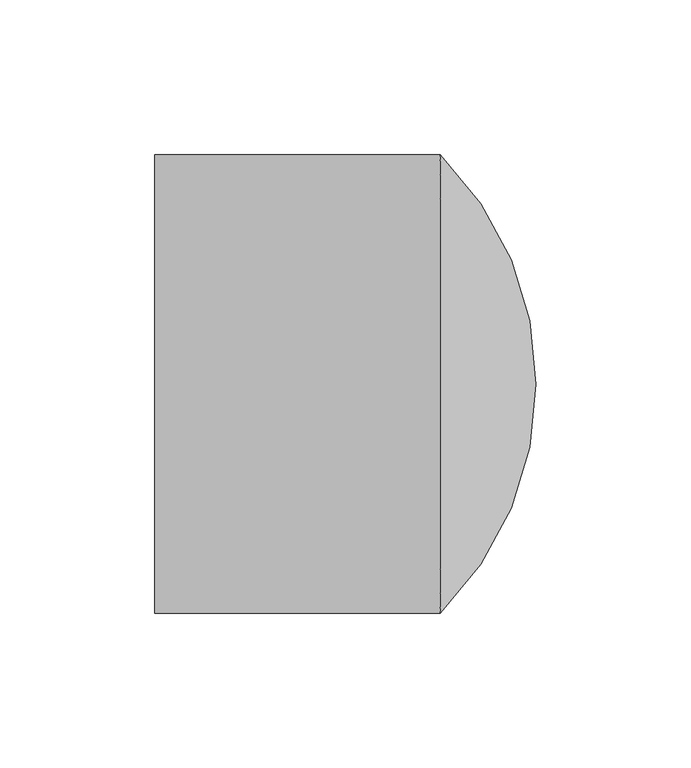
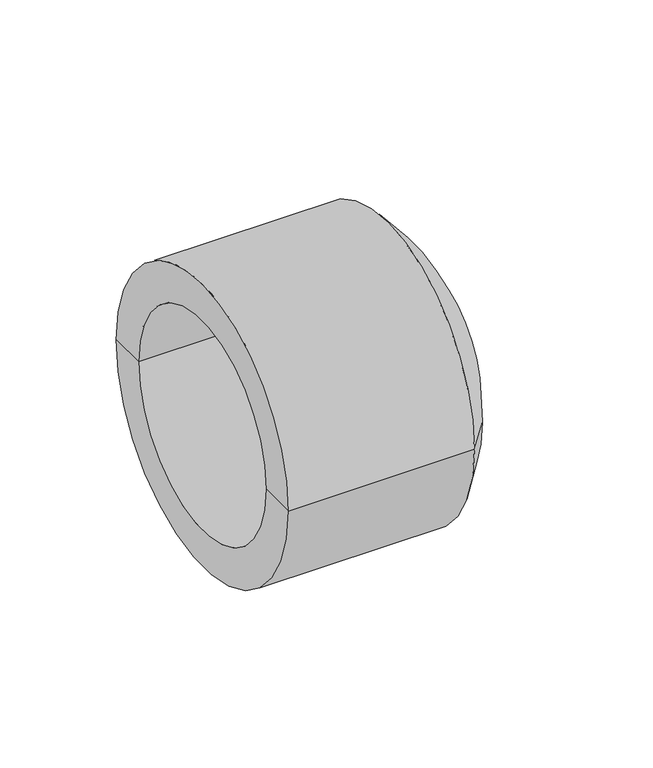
"""IFC4 building model written with IfcOpenShell, lengths in millimetres: pipe fitting geometry, EGB_VASEN_ PPR_Tapon a tope WXB700 : Tapón a tope WXRB700."""

from ifc_helpers import new_model, si_unit, point, frame, origin, place, context, project, spatial, polyline, circle_curve, ellipse_curve, trimmed, source, transform, mapped, element, save
from ifc_brep_helpers import plane_surface, cylinder_surface, revolved_surface, advanced_brep


def pipe_fitting_f6edc045(model_context):
    return source(origin(), model_context, "Body", "AdvancedBrep", [
        advanced_brep(
        [(0.0, -74.0, 0.0), (0.0, 74.0, 0.0), (92.25, 74.0, 0.0), (92.25, -74.0, 0.0), (0.0, -55.0, 0.0), (0.0, 55.0, 0.0), (83.9520174, -55.0, 0.0), (83.9520174, 55.0, 0.0), (104.0, 0.0, 0.0), (123.0, 0.0, 0.0)],
        [
            (0, 1, circle_curve(frame((0.0, 0.0, 0.0), z_axis=(1.0, 0.0, 0.0), x_axis=(0.0, 1.0, 0.0)), 74.0)),
            (1, 2),
            (2, 3, circle_curve(frame((92.25, 0.0, 0.0), z_axis=(-1.0, 0.0, 0.0), x_axis=(0.0, 1.0, 0.0)), 74.0)),
            (3, 0),
            (1, 0, circle_curve(frame((0.0, 0.0, 0.0), z_axis=(1.0, 0.0, 0.0), x_axis=(0.0, 1.0, 0.0)), 74.0)),
            (3, 2, circle_curve(frame((92.25, 0.0, 0.0), z_axis=(-1.0, 0.0, 0.0), x_axis=(0.0, 1.0, 0.0)), 74.0)),
            (4, 5, circle_curve(frame((0.0, 0.0, 0.0), z_axis=(1.0, 0.0, 0.0), x_axis=(0.0, 1.0, 0.0)), 55.0)),
            (5, 1),
            (0, 4),
            (5, 4, circle_curve(frame((0.0, 0.0, 0.0), z_axis=(1.0, 0.0, 0.0), x_axis=(0.0, 1.0, 0.0)), 55.0)),
            (6, 7, circle_curve(frame((83.9520174, 0.0, 0.0), z_axis=(1.0, 0.0, 0.0), x_axis=(0.0, 1.0, 0.0)), 55.0)),
            (7, 5),
            (4, 6),
            (7, 6, circle_curve(frame((83.9520174, 0.0, 0.0), z_axis=(1.0, 0.0, 0.0), x_axis=(0.0, 1.0, 0.0)), 55.0)),
            (8, 7, circle_curve(frame((18.958209, 0.1553537, 0.0), z_axis=(0.0, 0.0, 1.0), x_axis=(1.0, 0.0, 0.0)), 85.0419329)),
            (6, 8, circle_curve(frame((18.958209, -0.1553537, 0.0), z_axis=(0.0, 0.0, 1.0), x_axis=(1.0, 0.0, 0.0)), 85.0419329)),
            (2, 9, circle_curve(frame((18.958209, 0.1553537, 0.0), z_axis=(0.0, 0.0, -1.0), x_axis=(1.0, 0.0, 0.0)), 104.041907)),
            (9, 3, circle_curve(frame((18.958209, -0.1553537, 0.0), z_axis=(0.0, 0.0, -1.0), x_axis=(1.0, 0.0, 0.0)), 104.041907)),
        ],
        [
            cylinder_surface(frame((8.258615, 0.0, 0.0), z_axis=(-1.0, 0.0, 0.0), x_axis=(0.0, 1.0, 0.0)), 74.0),
            plane_surface(frame((0.0, 0.0, 0.0), z_axis=(-1.0, 0.0, 0.0), x_axis=(0.0, 1.0, 0.0))),
            revolved_surface(polyline([(0.0, 55.0, 0.0), (83.9520174, 55.0, 0.0)]), (8.258615, 0.0, 0.0), (-1.0, 0.0, 0.0)),
            revolved_surface(trimmed(ellipse_curve(frame((18.958209, 0.1553537, 0.0), z_axis=(0.0, 0.0, -1.0), x_axis=(1.0, 0.0, 0.0)), 85.0419329, 85.0419329), [point((83.9520174, 55.0, 0.0))], [point((104.0, 0.0, 0.0))], True, "CARTESIAN"), (8.258615, 0.0, 0.0), (-1.0, 0.0, 0.0)),
            revolved_surface(trimmed(ellipse_curve(frame((18.958209, 0.1553537, 0.0), z_axis=(0.0, 0.0, 1.0), x_axis=(1.0, 0.0, 0.0)), 104.041907, 104.041907), [point((123.0, 0.0, 0.0))], [point((92.25, 74.0, 0.0))], True, "CARTESIAN"), (8.258615, 0.0, 0.0), (-1.0, 0.0, 0.0)),
        ],
        [
            (0, [[1, 2, 3, 4]]),
            (0, [[5, -4, 6, -2]]),
            (1, [[7, 8, -1, 9]]),
            (1, [[10, -9, -5, -8]]),
            (2, [[11, 12, -7, 13]]),
            (2, [[14, -13, -10, -12]]),
            (3, [[15, -11, 16]]),
            (3, [[-16, -14, -15]]),
            (4, [[-3, 17, 18]]),
            (4, [[-6, -18, -17]]),
        ],
    ),
    ])


if __name__ == "__main__":
    model = new_model("IFC4")
    model_context = context("Model", 3, world=origin())
    ifc_project = project(units=[si_unit("LENGTHUNIT", "METRE", prefix="MILLI")], contexts=[model_context])
    site = spatial("IfcSite", under=ifc_project)
    building = spatial("IfcBuilding", under=site)
    placement = place(None, origin())
    pipe_fitting_shape = pipe_fitting_f6edc045(model_context)
    element("IfcPipeFitting", 1, ObjectType="EGB_VASEN_ PPR_Tapon a tope WXB700 : Tapón a tope WXRB700", at=placement, inside=building, context=model_context, shape_type="MappedRepresentation", body=[
        mapped(pipe_fitting_shape, transform((0.0, 0.0, 0.0), x_axis=(1.0, 0.0, 0.0), y_axis=(0.0, 1.0, 0.0), z_axis=(0.0, 0.0, 1.0))),
    ])
    save(model, "model.ifc")
